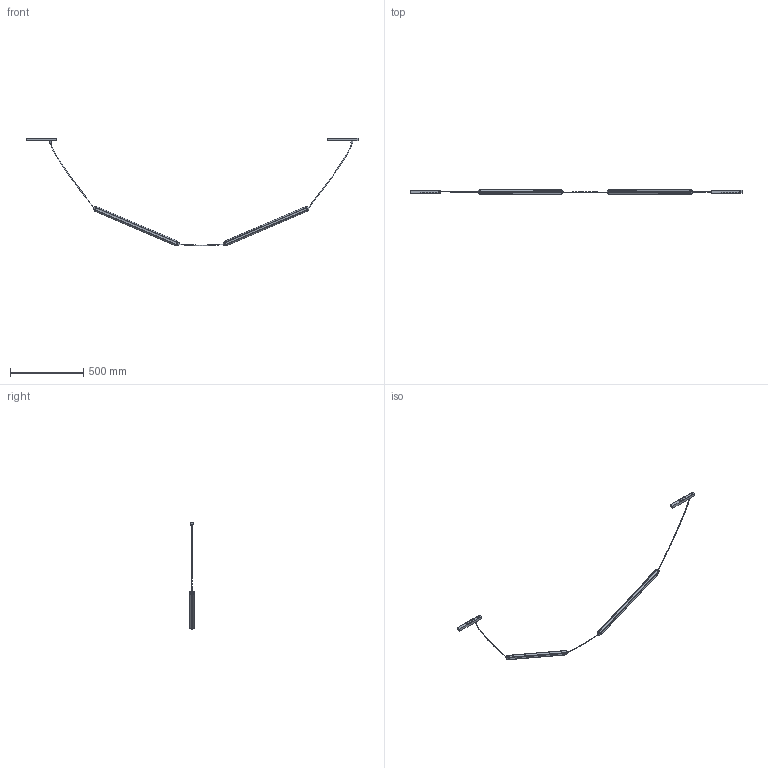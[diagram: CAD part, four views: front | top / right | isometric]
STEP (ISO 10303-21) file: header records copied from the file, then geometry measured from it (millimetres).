
FILE_DESCRIPTION(/* description */ (''),/* implementation_level */ '2;1');
FILE_NAME(/* name */ '64622141D_3d',/* time_stamp */ '2026-05-11T13:18:41+02:00',/* author */ (''),/* organization */ (''),/* preprocessor_version */ 'ST-DEVELOPER v19.2',/* originating_system */ 'Rhino 8.30',/* authorisation */ '');
FILE_SCHEMA (('CONFIG_CONTROL_DESIGN'));
Length unit declared in the file: millimetre
Products named in the file (1): Document
Bounding box: 2259.5 x 29.26 x 731.86 mm (x, y, z)
Volume: 460495.9 mm3; surface area: 251900.6 mm2
Topology: 9 solids, 111 shells, 314 faces, 1079 edges, 858 vertices
Faces by surface type: cylinder 148, plane 148, bspline 18
Entity records: 15597 total; most frequent: CARTESIAN_POINT 7541, ORIENTED_EDGE 1660, EDGE_CURVE 1070, DIRECTION 896, VERTEX_POINT 856, B_SPLINE_CURVE_WITH_KNOTS 745, AXIS2_PLACEMENT_3D 596, EDGE_LOOP 360
